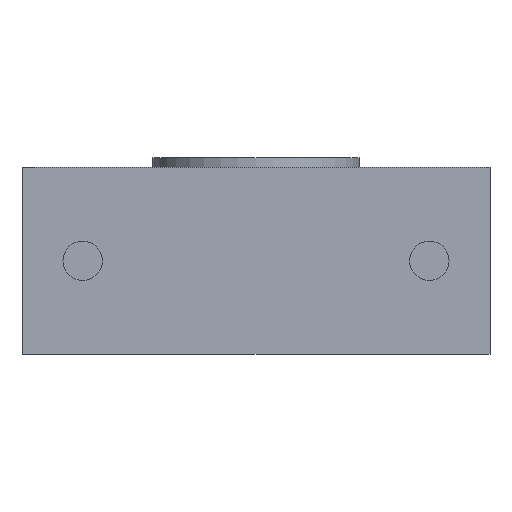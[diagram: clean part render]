
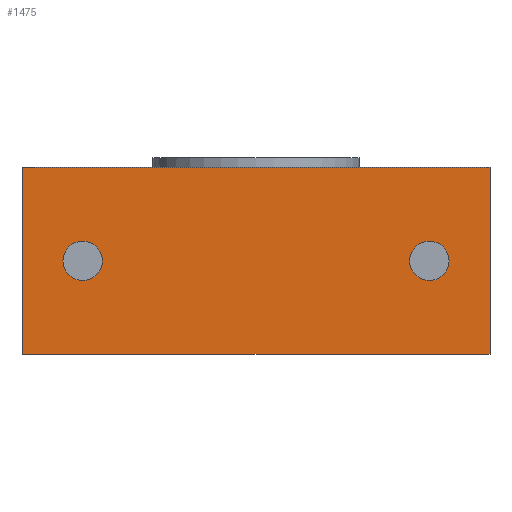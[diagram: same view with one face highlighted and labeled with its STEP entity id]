
A CAD part, front view. The second image highlights one B-rep face of the part: STEP entity #1475.
In plain terms, the highlighted planar face has unit normal (0, -1, 0).
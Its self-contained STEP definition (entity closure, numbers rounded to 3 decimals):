
#92=FACE_BOUND('',#265,.T.);
#93=FACE_BOUND('',#266,.T.);
#121=PLANE('',#1688);
#175=FACE_OUTER_BOUND('',#264,.T.);
#264=EDGE_LOOP('',(#1082,#1083,#1084,#1085));
#265=EDGE_LOOP('',(#1086,#1087));
#266=EDGE_LOOP('',(#1088,#1089));
#366=LINE('',#2426,#446);
#373=LINE('',#2442,#453);
#382=LINE('',#2477,#462);
#383=LINE('',#2479,#463);
#446=VECTOR('',#1907,10.);
#453=VECTOR('',#1920,10.);
#462=VECTOR('',#1963,10.);
#463=VECTOR('',#1966,10.);
#518=CIRCLE('',#1635,5.053);
#519=CIRCLE('',#1636,5.053);
#522=CIRCLE('',#1641,5.053);
#523=CIRCLE('',#1642,5.053);
#606=VERTEX_POINT('',#2355);
#607=VERTEX_POINT('',#2356);
#610=VERTEX_POINT('',#2366);
#611=VERTEX_POINT('',#2367);
#633=VERTEX_POINT('',#2423);
#634=VERTEX_POINT('',#2425);
#639=VERTEX_POINT('',#2439);
#640=VERTEX_POINT('',#2441);
#753=EDGE_CURVE('',#606,#607,#518,.T.);
#754=EDGE_CURVE('',#607,#606,#519,.T.);
#758=EDGE_CURVE('',#610,#611,#522,.T.);
#759=EDGE_CURVE('',#611,#610,#523,.T.);
#786=EDGE_CURVE('',#634,#633,#366,.T.);
#794=EDGE_CURVE('',#640,#639,#373,.T.);
#813=EDGE_CURVE('',#633,#640,#382,.T.);
#814=EDGE_CURVE('',#639,#634,#383,.T.);
#1082=ORIENTED_EDGE('',*,*,#813,.T.);
#1083=ORIENTED_EDGE('',*,*,#794,.T.);
#1084=ORIENTED_EDGE('',*,*,#814,.T.);
#1085=ORIENTED_EDGE('',*,*,#786,.T.);
#1086=ORIENTED_EDGE('',*,*,#753,.T.);
#1087=ORIENTED_EDGE('',*,*,#754,.T.);
#1088=ORIENTED_EDGE('',*,*,#758,.T.);
#1089=ORIENTED_EDGE('',*,*,#759,.T.);
#1475=ADVANCED_FACE('',(#175,#92,#93),#121,.F.);
#1635=AXIS2_PLACEMENT_3D('',#2357,#1833,#1834);
#1636=AXIS2_PLACEMENT_3D('',#2358,#1835,#1836);
#1641=AXIS2_PLACEMENT_3D('',#2368,#1846,#1847);
#1642=AXIS2_PLACEMENT_3D('',#2369,#1848,#1849);
#1688=AXIS2_PLACEMENT_3D('',#2480,#1967,#1968);
#1833=DIRECTION('center_axis',(0.,1.,0.));
#1834=DIRECTION('ref_axis',(-1.,0.,0.));
#1835=DIRECTION('center_axis',(0.,1.,0.));
#1836=DIRECTION('ref_axis',(-1.,0.,0.));
#1846=DIRECTION('center_axis',(0.,1.,0.));
#1847=DIRECTION('ref_axis',(-1.,0.,0.));
#1848=DIRECTION('center_axis',(0.,1.,0.));
#1849=DIRECTION('ref_axis',(-1.,0.,0.));
#1907=DIRECTION('',(1.,0.,0.));
#1920=DIRECTION('',(-1.,0.,0.));
#1963=DIRECTION('',(0.,0.,1.));
#1966=DIRECTION('',(0.,0.,-1.));
#1967=DIRECTION('center_axis',(0.,1.,0.));
#1968=DIRECTION('ref_axis',(0.,0.,1.));
#2355=CARTESIAN_POINT('',(-49.503,-49.2,0.));
#2356=CARTESIAN_POINT('',(-39.397,-49.2,0.));
#2357=CARTESIAN_POINT('Origin',(-44.45,-49.2,0.));
#2358=CARTESIAN_POINT('Origin',(-44.45,-49.2,0.));
#2366=CARTESIAN_POINT('',(39.397,-49.2,0.));
#2367=CARTESIAN_POINT('',(49.503,-49.2,0.));
#2368=CARTESIAN_POINT('Origin',(44.45,-49.2,0.));
#2369=CARTESIAN_POINT('Origin',(44.45,-49.2,0.));
#2423=CARTESIAN_POINT('',(60.,-49.2,-24.));
#2425=CARTESIAN_POINT('',(-60.,-49.2,-24.));
#2426=CARTESIAN_POINT('',(30.,-49.2,-24.));
#2439=CARTESIAN_POINT('',(-60.,-49.2,24.));
#2441=CARTESIAN_POINT('',(60.,-49.2,24.));
#2442=CARTESIAN_POINT('',(-30.,-49.2,24.));
#2477=CARTESIAN_POINT('',(60.,-49.2,12.));
#2479=CARTESIAN_POINT('',(-60.,-49.2,-12.));
#2480=CARTESIAN_POINT('Origin',(0.,-49.2,0.));
